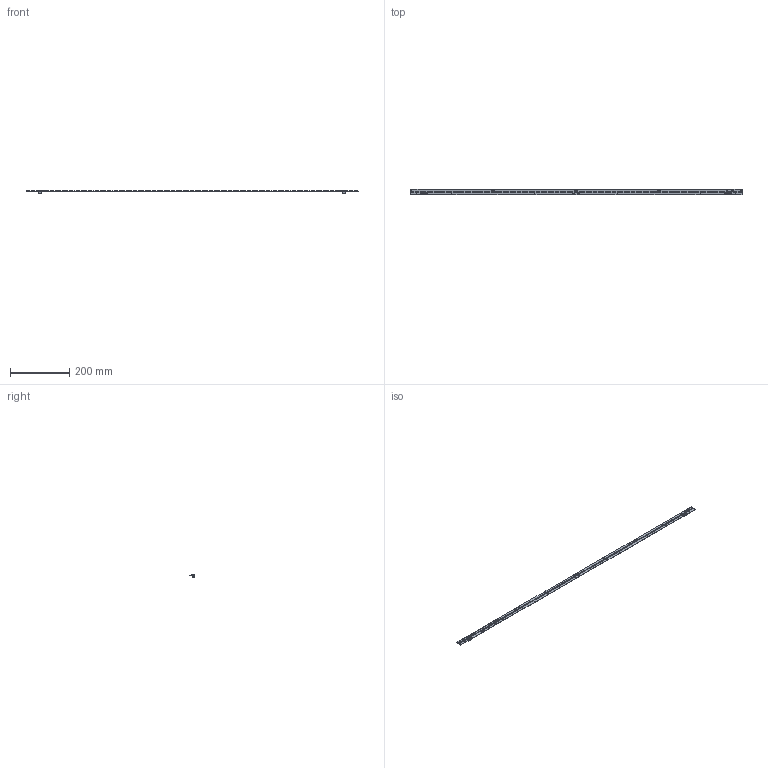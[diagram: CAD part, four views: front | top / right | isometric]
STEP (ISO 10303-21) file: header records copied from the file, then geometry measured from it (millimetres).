
FILE_DESCRIPTION(('Creo Elements/Direct Modeling STEP Export'),'2;1');
FILE_NAME('3D-Model__WU-M-703-BC.stp','2023-03-28T13:41:22',(''),(''),'PTC Creo Elements/Direct Modeling STEP processor for AP214 (Solid Model)','PTC Creo Elements/Direct Modeling 19.0E 27-Jun-2016 (C) Parametric Technology GmbH','');
FILE_SCHEMA(('AUTOMOTIVE_DESIGN { 1 0 10303 214 1 1 1 1 }'));
Length unit declared in the file: millimetre
Products named in the file (264): CONN01.PRT; CONN01.PRT.1; CON01.ASM; LED01.PRT; LED1.ASM; CON02.ASM; PLOCA_WU-M-703-1253840_PRT.PRT; PLOCA_WU-M-703-1255670_ASM.ASM; PLOCA_WU-M-703_1-1192070_PRT.PRT; PLOCA_WU-M-703_1-1192490_ASM.ASM; PLOCA_WU-M-703_10-1188120_PRT.PRT; PLOCA_WU-M-703_10-1188660_ASM.ASM; PLOCA_WU-M-703_100-1179240_PRT.PRT; PLOCA_WU-M-703_100-1179810_ASM.ASM; PLOCA_WU-M-703_101-1169240_PRT.PRT; PLOCA_WU-M-703_101-1169710_ASM.ASM; PLOCA_WU-M-703_102-1163430_PRT.PRT; PLOCA_WU-M-703_102-1163890_ASM.ASM; PLOCA_WU-M-703_103-1157860_PRT.PRT; PLOCA_WU-M-703_103-1158400_ASM.ASM; PLOCA_WU-M-703_104-1149060_PRT.PRT; PLOCA_WU-M-703_104-1149550_ASM.ASM; PLOCA_WU-M-703_105-1142200_PRT.PRT; PLOCA_WU-M-703_105-1142790_ASM.ASM; PLOCA_WU-M-703_106-1131270_PRT.PRT; PLOCA_WU-M-703_106-1131870_ASM.ASM; PLOCA_WU-M-703_107-1119890_PRT.PRT; PLOCA_WU-M-703_107-1120520_ASM.ASM; PLOCA_WU-M-703_108-1107360_PRT.PRT; PLOCA_WU-M-703_108-1107940_ASM.ASM; PLOCA_WU-M-703_109-1096780_PRT.PRT; PLOCA_WU-M-703_109-1097410_ASM.ASM; PLOCA_WU-M-703_11-1084290_PRT.PRT; PLOCA_WU-M-703_11-1084830_ASM.ASM; PLOCA_WU-M-703_110-1075590_PRT.PRT; PLOCA_WU-M-703_110-1075980_ASM.ASM; PLOCA_WU-M-703_111-1072800_PRT.PRT; PLOCA_WU-M-703_111-1073400_ASM.ASM; PLOCA_WU-M-703_112-1061270_PRT.PRT; PLOCA_WU-M-703_112-1062050_ASM.ASM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
Assembly tree (402 placements, depth 4):
  3D-MODEL__WU-M-703-BC.stp
    3D-MODEL_WU-M-703-BC_STP.ASM
      PLOCA_WU-M-703_99-12610_ASM.ASM
        PLOCA_WU-M-703_99-11980_PRT.PRT
      PLOCA_WU-M-703_98-18940_ASM.ASM
        PLOCA_WU-M-703_98-18460_PRT.PRT
      PLOCA_WU-M-703_97-28240_ASM.ASM
        PLOCA_WU-M-703_97-27690_PRT.PRT
      PLOCA_WU-M-703_96-30820_ASM.ASM
        PLOCA_WU-M-703_96-30430_PRT.PRT
      PLOCA_WU-M-703_95-38010_ASM.ASM
        PLOCA_WU-M-703_95-37510_PRT.PRT
      PLOCA_WU-M-703_94-56950_ASM.ASM
        PLOCA_WU-M-703_94-56160_PRT.PRT
      PLOCA_WU-M-703_93-67030_ASM.ASM
        PLOCA_WU-M-703_93-66460_PRT.PRT
      PLOCA_WU-M-703_92-72150_ASM.ASM
        PLOCA_WU-M-703_92-71700_PRT.PRT
      PLOCA_WU-M-703_91-77640_ASM.ASM
        PLOCA_WU-M-703_91-77180_PRT.PRT
      PLOCA_WU-M-703_90-84790_ASM.ASM
        PLOCA_WU-M-703_90-84290_PRT.PRT
      PLOCA_WU-M-703_9-93190_ASM.ASM
        PLOCA_WU-M-703_9-92660_PRT.PRT
      PLOCA_WU-M-703_89-104150_ASM.ASM
        PLOCA_WU-M-703_89-103560_PRT.PRT
      PLOCA_WU-M-703_88-119230_ASM.ASM
        PLOCA_WU-M-703_88-118540_PRT.PRT
      PLOCA_WU-M-703_87-128080_ASM.ASM
        PLOCA_WU-M-703_87-127540_PRT.PRT
      PLOCA_WU-M-703_86-136930_ASM.ASM
        PLOCA_WU-M-703_86-136390_PRT.PRT
      PLOCA_WU-M-703_85-149590_ASM.ASM
        PLOCA_WU-M-703_85-148960_PRT.PRT
      PLOCA_WU-M-703_84-152170_ASM.ASM
        PLOCA_WU-M-703_84-151780_PRT.PRT
      PLOCA_WU-M-703_83-167250_ASM.ASM
        PLOCA_WU-M-703_83-166560_PRT.PRT
      PLOCA_WU-M-703_82-179870_ASM.ASM
        PLOCA_WU-M-703_82-179240_PRT.PRT
      PLOCA_WU-M-703_81-192450_ASM.ASM
        PLOCA_WU-M-703_81-191820_PRT.PRT
      PLOCA_WU-M-703_80-203800_ASM.ASM
        PLOCA_WU-M-703_80-203200_PRT.PRT
      PLOCA_WU-M-703_8-216420_ASM.ASM
        PLOCA_WU-M-703_8-215790_PRT.PRT
      PLOCA_WU-M-703_79-225270_ASM.ASM
        PLOCA_WU-M-703_79-224730_PRT.PRT
      PLOCA_WU-M-703_78-234920_ASM.ASM
        PLOCA_WU-M-703_78-234360_PRT.PRT
      PLOCA_WU-M-703_77-242070_ASM.ASM
        PLOCA_WU-M-703_77-241570_PRT.PRT
      PLOCA_WU-M-703_76-250080_ASM.ASM
        PLOCA_WU-M-703_76-249560_PRT.PRT
      PLOCA_WU-M-703_75-255180_ASM.ASM
        PLOCA_WU-M-703_75-254730_PRT.PRT
      PLOCA_WU-M-703_74-261000_ASM.ASM
        PLOCA_WU-M-703_74-260530_PRT.PRT
      PLOCA_WU-M-703_73-276250_ASM.ASM
        PLOCA_WU-M-703_73-275550_PRT.PRT
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Bounding box: 1119 x 20 x 7.45 mm (x, y, z)
Volume: 23358.6 mm3; surface area: 52321.1 mm2
Topology: 270 solids, 270 shells, 14112 faces, 38912 edges, 25746 vertices
Faces by surface type: plane 10985, cylinder 3115, cone 12
Entity records: 144703 total; most frequent: CARTESIAN_POINT 19816, DIRECTION 18892, ORIENTED_EDGE 18888, EDGE_CURVE 9444, VECTOR 7604, LINE 7604, VERTEX_POINT 6286, AXIS2_PLACEMENT_3D 5644
